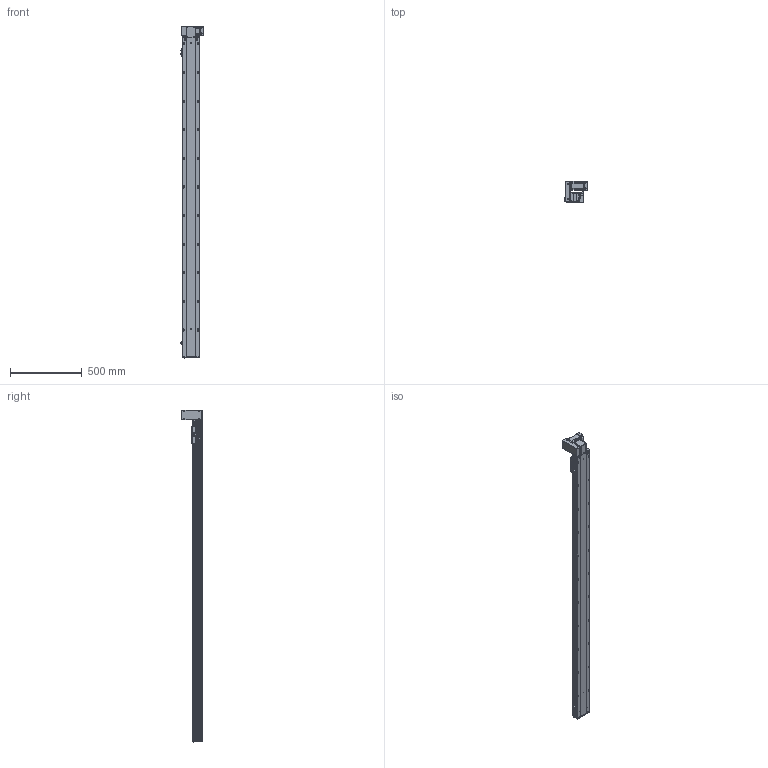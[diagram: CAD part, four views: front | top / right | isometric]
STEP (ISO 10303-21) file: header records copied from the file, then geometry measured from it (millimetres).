
FILE_DESCRIPTION (( 'STEP AP203' ), '1' );
FILE_NAME ('RY120-T-300-UL.SLDASM_2000.step', '2021-03-01T05:37:55', ( '盈信电脑' ), ( '东莞市道滘镇水果街19号' ), 'SwSTEP 2.0', 'SolidWorks 2012', '' );
FILE_SCHEMA (( 'CONFIG_CONTROL_DESIGN' ));
Length unit declared in the file: millimetre
Products named in the file (18): RY120-T蹟翐M4; RY120-T翋肮祭謫裔啣; RY120-T-300-UL.SLDASM_2000; RY120-T主同步轮轴承压盖; 滅袉蝶18-10; RY120-T萇儂欶; RY120-T萇儂假蚾啣; 侂狟400W侜督萇儂; 15; RY120-T翋肮祭盓傅釱; RY120-T肮祭湍揤踡輸2; 覜茼ん672; RY120外置感应片(140共用）; RY120-T肮祭湍揤踡輸1; RY120-T-300-UL倰第奻裔啣_2000; RY120-T-300-UL倰第菁釱_2000; RY120綴裔啣; RY120肮祭湍臏賑輸
Assembly tree (23 placements, depth 3):
  RY120-T-300-UL.SLDASM_2000
    RY120-T-300-UL倰第菁釱_2000
    RY120-T-300-UL倰第奻裔啣_2000
    RY120肮祭湍臏賑輸
    RY120綴裔啣
    覜茼ん672  x3
    RY120外置感应片(140共用）
    RY120-T肮祭湍揤踡輸1
    RY120-T肮祭湍揤踡輸2
    RY120-T翋肮祭盓傅釱
    RY120-T萇儂假蚾啣
    侂狟400W侜督萇儂
      15
    RY120-T主同步轮轴承压盖
    滅袉蝶18-10  x2
    RY120-T萇儂欶
    RY120-T蹟翐M4  x4
    RY120-T翋肮祭謫裔啣
Bounding box: 164.2 x 146 x 2321 mm (x, y, z)
Volume: 5806454.7 mm3; surface area: 2218300.1 mm2
Topology: 23 solids, 23 shells, 3116 faces, 8528 edges, 5432 vertices
Faces by surface type: plane 1452, cylinder 1250, cone 325, bspline 89
Entity records: 100378 total; most frequent: CARTESIAN_POINT 26232, ORIENTED_EDGE 15344, DIRECTION 14474, EDGE_CURVE 7672, VERTEX_POINT 5019, AXIS2_PLACEMENT_3D 4921, LINE 4632, VECTOR 4632
